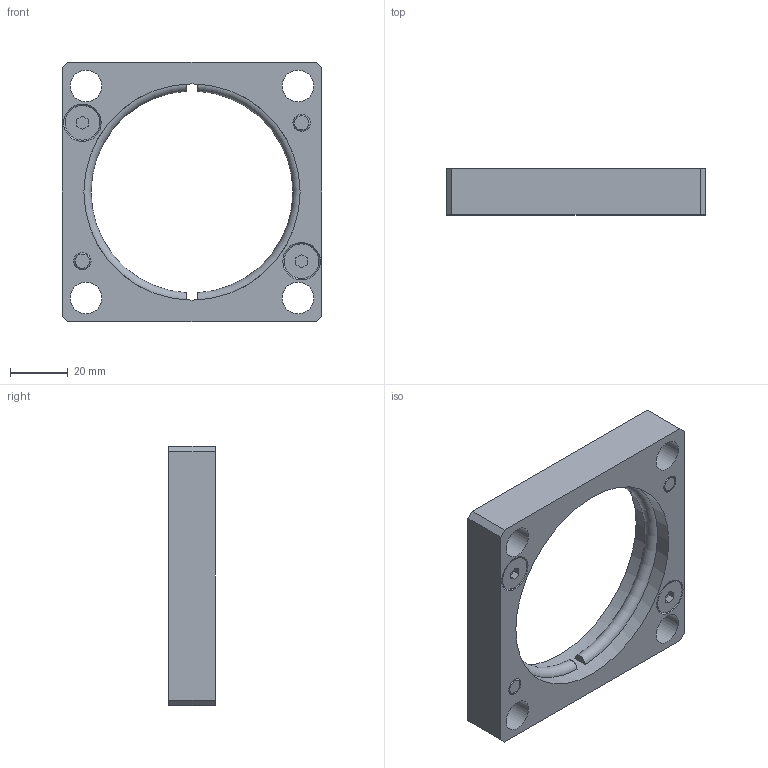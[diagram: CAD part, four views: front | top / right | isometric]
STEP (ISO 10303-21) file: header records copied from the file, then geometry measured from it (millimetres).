
FILE_DESCRIPTION(/* description */ (''),/* implementation_level */ '2;1');
FILE_NAME(/* name */ 'C:\Users\Jefferson\Desktop\Biblioteca Pro Nitro 2024 - Inventor\Flanges\PNB-65-XXX\PNB-65-075.stp',/* time_stamp */ '2024-12-30T16:22:37-03:00',/* author */ ('Jefferson'),/* organization */ (''),/* preprocessor_version */ 'ST-DEVELOPER v19',/* originating_system */ 'Autodesk Inventor 2023',/* authorisation */ '');
FILE_SCHEMA (('AUTOMOTIVE_DESIGN { 1 0 10303 214 3 1 1 }'));
Length unit declared in the file: millimetre
Products named in the file (3): PNB-65-075; DNB-0016-075; DIN 7991 - M6x16
Assembly tree (5 placements, depth 2):
  PNB-65-075
    DNB-0016-075
    DIN 7991 - M6x16  x4
Bounding box: 90 x 16 x 90 mm (x, y, z)
Volume: 54634.8 mm3; surface area: 21932.9 mm2
Topology: 5 solids, 5 shells, 238 faces, 618 edges, 410 vertices
Faces by surface type: plane 124, bspline 79, cylinder 17, cone 12, torus 6
Full cylindrical faces by diameter (mm): 6 x8, 11 x4, 12 x4, 75 x1
Entity records: 6731 total; most frequent: CARTESIAN_POINT 2168, ORIENTED_EDGE 1044, DIRECTION 650, EDGE_CURVE 522, VERTEX_POINT 347, LINE 320, VECTOR 320, EDGE_LOOP 231
